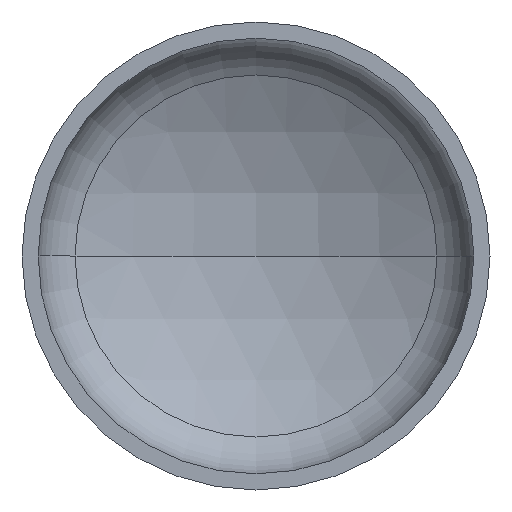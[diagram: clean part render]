
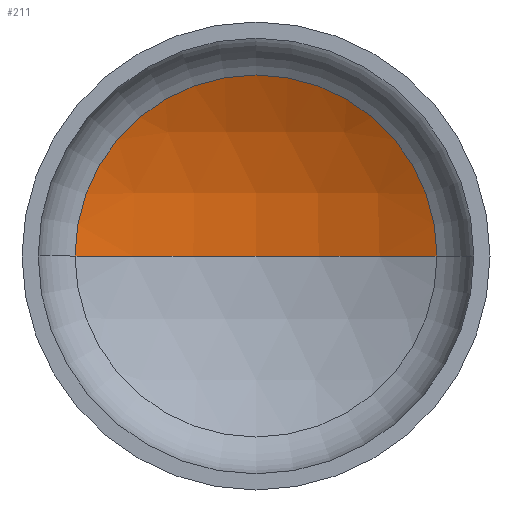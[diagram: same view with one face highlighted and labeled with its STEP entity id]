
A CAD part, front view. The second image highlights one B-rep face of the part: STEP entity #211.
In plain terms, the highlighted spherical face has radius 325 mm.
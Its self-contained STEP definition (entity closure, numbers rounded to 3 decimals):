
#16 = DIRECTION ( 'NONE',  ( 1., 0., 0. ) ) ;
#20 = CIRCLE ( 'NONE', #41, 157.186 ) ;
#24 = AXIS2_PLACEMENT_3D ( 'NONE', #114, #212, #33 ) ;
#33 = DIRECTION ( 'NONE',  ( -1., 0., 0. ) ) ;
#38 = AXIS2_PLACEMENT_3D ( 'NONE', #403, #172, #388 ) ;
#39 = AXIS2_PLACEMENT_3D ( 'NONE', #139, #164, #167 ) ;
#41 = AXIS2_PLACEMENT_3D ( 'NONE', #207, #44, #16 ) ;
#44 = DIRECTION ( 'NONE',  ( 0., -1., 0. ) ) ;
#70 = ORIENTED_EDGE ( 'NONE', *, *, #106, .T. ) ;
#99 = VERTEX_POINT ( 'NONE', #285 ) ;
#106 = EDGE_CURVE ( 'NONE', #267, #209, #20, .T. ) ;
#114 = CARTESIAN_POINT ( 'NONE',  ( 0., -185.194, 0. ) ) ;
#121 = EDGE_CURVE ( 'NONE', #99, #267, #128, .T. ) ;
#126 = ORIENTED_EDGE ( 'NONE', *, *, #131, .F. ) ;
#128 = CIRCLE ( 'NONE', #38, 325. ) ;
#131 = EDGE_CURVE ( 'NONE', #99, #209, #217, .T. ) ;
#139 = CARTESIAN_POINT ( 'NONE',  ( 0., -185.194, 0. ) ) ;
#164 = DIRECTION ( 'NONE',  ( 0., 0., 1. ) ) ;
#167 = DIRECTION ( 'NONE',  ( 1., 0., 0. ) ) ;
#172 = DIRECTION ( 'NONE',  ( 0., 0., -1. ) ) ;
#198 = EDGE_LOOP ( 'NONE', ( #126, #401, #70 ) ) ;
#200 = FACE_OUTER_BOUND ( 'NONE', #198, .T. ) ;
#207 = CARTESIAN_POINT ( 'NONE',  ( 0., 99.266, 0. ) ) ;
#209 = VERTEX_POINT ( 'NONE', #219 ) ;
#211 = ADVANCED_FACE ( 'NONE', ( #200 ), #395, .F. ) ;
#212 = DIRECTION ( 'NONE',  ( 0., 0., -1. ) ) ;
#217 = CIRCLE ( 'NONE', #39, 325. ) ;
#219 = CARTESIAN_POINT ( 'NONE',  ( -157.186, 99.266, 0. ) ) ;
#267 = VERTEX_POINT ( 'NONE', #378 ) ;
#285 = CARTESIAN_POINT ( 'NONE',  ( 0., 139.806, 0. ) ) ;
#378 = CARTESIAN_POINT ( 'NONE',  ( 157.186, 99.266, 0. ) ) ;
#388 = DIRECTION ( 'NONE',  ( -1., 0., 0. ) ) ;
#395 = SPHERICAL_SURFACE ( 'NONE', #24, 325. ) ;
#401 = ORIENTED_EDGE ( 'NONE', *, *, #121, .T. ) ;
#403 = CARTESIAN_POINT ( 'NONE',  ( 0., -185.194, 0. ) ) ;
